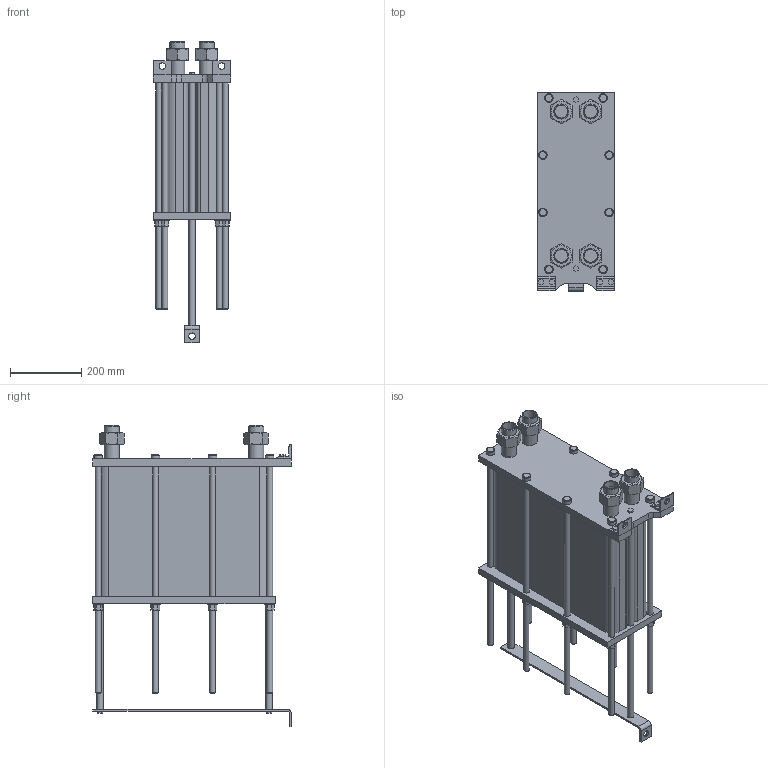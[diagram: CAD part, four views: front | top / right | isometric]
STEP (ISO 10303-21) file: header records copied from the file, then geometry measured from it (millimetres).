
FILE_DESCRIPTION(/* description */ (''),/* implementation_level */ '2;1');
FILE_NAME(/* name */ 'C:\Users\zhuro\Desktop\ENCO\TO\ЭН-004\ЭН-0,5-004-118-1.stp',/* time_stamp */ '2022-06-06T10:54:21+03:00',/* author */ ('zhuro'),/* organization */ (''),/* preprocessor_version */ 'ST-DEVELOPER v18.1',/* originating_system */ 'Autodesk Inventor 2022',/* authorisation */ '');
FILE_SCHEMA (('AUTOMOTIVE_DESIGN { 1 0 10303 214 3 1 1 }'));
Length unit declared in the file: millimetre
Products named in the file (1): ЭН-0,5-004-118-1
Bounding box: 216 x 555 x 843.4 mm (x, y, z)
Volume: 33251325.8 mm3; surface area: 1750625.4 mm2
Topology: 40 solids, 40 shells, 403 faces, 865 edges, 574 vertices
Faces by surface type: plane 272, cylinder 103, cone 28
Full cylindrical faces by diameter (mm): 10 x4, 16 x16, 18 x29, 20 x2, 24 x8, 28 x8, 36.3 x5, 42.3 x9
Entity records: 11137 total; most frequent: CARTESIAN_POINT 1939, DIRECTION 1879, ORIENTED_EDGE 1730, EDGE_CURVE 865, AXIS2_PLACEMENT_3D 658, VERTEX_POINT 574, LINE 563, VECTOR 563
